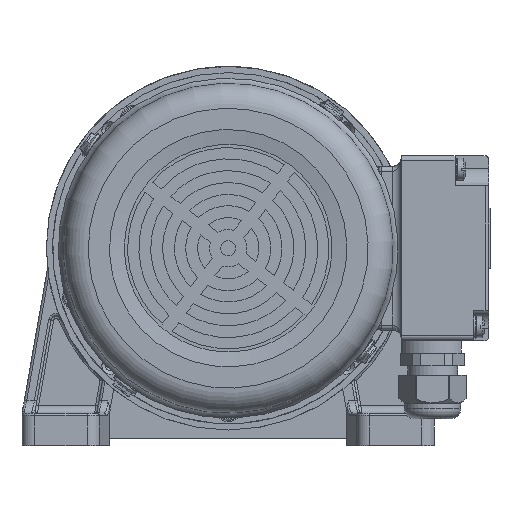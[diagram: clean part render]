
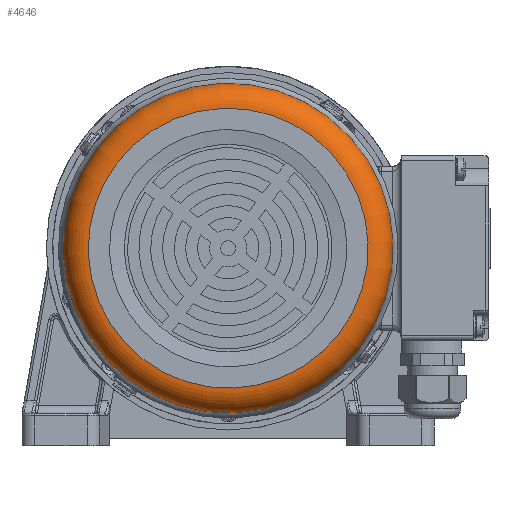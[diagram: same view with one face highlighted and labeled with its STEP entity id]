
A CAD part, left-side view. The second image highlights one B-rep face of the part: STEP entity #4646.
In plain terms, the highlighted toroidal (fillet/blend) face has major radius 56 mm and minor radius 10 mm.
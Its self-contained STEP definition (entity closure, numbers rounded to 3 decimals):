
#652=FACE_BOUND('',#10052,.T.);
#653=FACE_BOUND('',#10053,.T.);
#1003=TOROIDAL_SURFACE('',#40026,56.,10.);
#4646=ADVANCED_FACE('',(#652,#653),#1003,.T.);
#10052=EDGE_LOOP('',(#18181));
#10053=EDGE_LOOP('',(#18182));
#18181=ORIENTED_EDGE('',*,*,#28895,.T.);
#18182=ORIENTED_EDGE('',*,*,#27203,.F.);
#22933=VERTEX_POINT('',#59254);
#24041=VERTEX_POINT('',#65921);
#27203=EDGE_CURVE('',#22933,#22933,#36029,.T.);
#28895=EDGE_CURVE('',#24041,#24041,#36626,.T.);
#36029=CIRCLE('',#38870,56.);
#36626=CIRCLE('',#40025,66.);
#38870=AXIS2_PLACEMENT_3D('',#59253,#45641,#45642);
#40025=AXIS2_PLACEMENT_3D('',#65920,#48761,#48762);
#40026=AXIS2_PLACEMENT_3D('',#65922,#48763,#48764);
#45641=DIRECTION('',(-1.,0.,0.));
#45642=DIRECTION('',(0.,-0.609,0.793));
#48761=DIRECTION('',(-1.,0.,0.));
#48762=DIRECTION('',(0.,-0.609,0.793));
#48763=DIRECTION('',(-1.,0.,0.));
#48764=DIRECTION('',(0.,-0.609,0.793));
#59253=CARTESIAN_POINT('',(-143.3,104.722,32.605));
#59254=CARTESIAN_POINT('',(-143.3,70.632,77.032));
#65920=CARTESIAN_POINT('',(-133.3,104.722,32.605));
#65921=CARTESIAN_POINT('',(-133.3,64.544,84.966));
#65922=CARTESIAN_POINT('',(-133.3,104.722,32.605));
